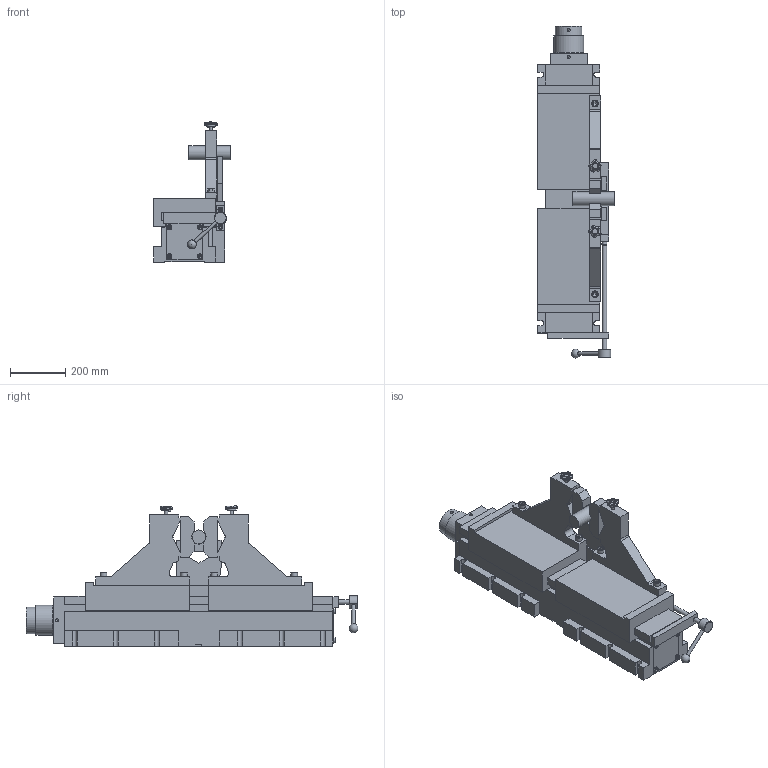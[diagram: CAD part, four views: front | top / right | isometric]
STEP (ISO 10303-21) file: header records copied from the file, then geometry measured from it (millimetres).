
FILE_DESCRIPTION((''),'2;1');
FILE_NAME('C:\VaultWork\Zeichnungen\Maßblätter\PZ440\PZ01314-1-0 PZ440 mit Vorzentrierung Spannbereich 22-250 mit Spanneinsatz.stp','2009-02-12T09:39:25',('Test'),(''),'Autodesk Inventor 2008','Autodesk Inventor 2008','');
FILE_SCHEMA(('AUTOMOTIVE_DESIGN { 1 0 10303 214 1 1 1 1 }'));
Length unit declared in the file: millimetre
Products named in the file (1): PZ01314-1-0 PZ440 mit Vorzentrierung Spannbereich 22-250 mit Spanneinsatz
Bounding box: 278 x 1201 x 506.9 mm (x, y, z)
Volume: 295403.7 mm3; surface area: 1744277 mm2
Topology: 8 solids, 9 shells, 476 faces, 1253 edges, 812 vertices
Faces by surface type: plane 317, cylinder 71, torus 52, bspline 22, cone 13, sphere 1
Full cylindrical faces by diameter (mm): 12 x7, 16 x2, 18 x6, 20 x2, 24 x4, 32 x2, 50 x1, 90 x1, 96 x1, 108 x1
Entity records: 15343 total; most frequent: CARTESIAN_POINT 3638, ORIENTED_EDGE 2298, DIRECTION 2186, EDGE_CURVE 1149, VECTOR 796, LINE 796, VERTEX_POINT 776, AXIS2_PLACEMENT_3D 695
